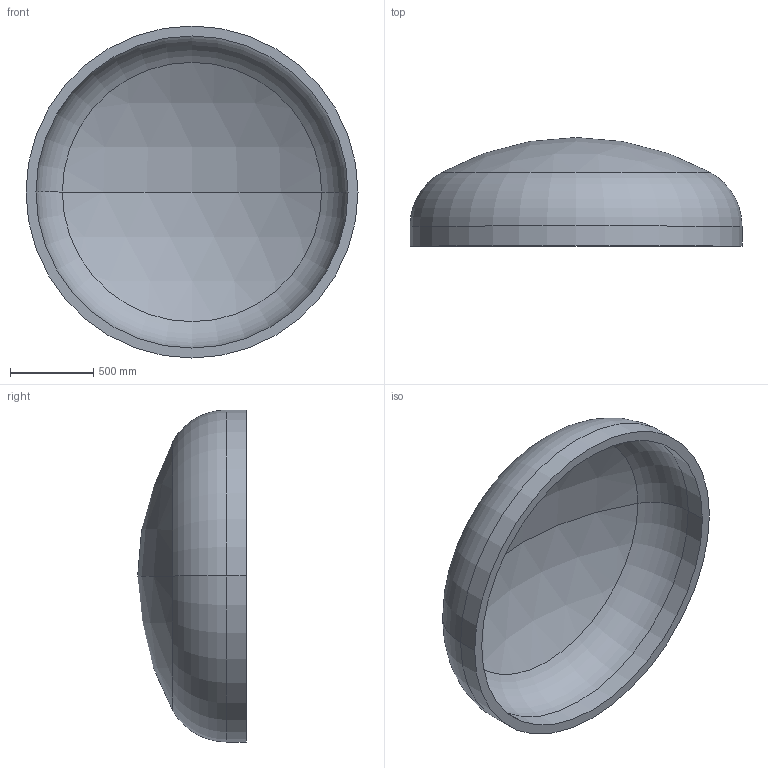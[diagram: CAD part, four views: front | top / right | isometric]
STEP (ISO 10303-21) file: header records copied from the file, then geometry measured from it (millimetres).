
FILE_DESCRIPTION (( 'STEP AP203' ), '1' );
FILE_NAME ('DIN 28013 Korbbogenform_-_Boden DIN 28013 - 2000 x 120 - I - s=60.step', '2016-07-01T13:59:27', ( '' ), ( '' ), 'SwSTEP 2.0', 'SolidWorks 2013', '' );
FILE_SCHEMA (( 'CONFIG_CONTROL_DESIGN' ));
Length unit declared in the file: millimetre
Products named in the file (1): DIN 28013 Korbbogenform_-_Boden DIN 28013 - 2000 x 120 - I - s=60
Bounding box: 2000 x 654.3 x 2000 mm (x, y, z)
Volume: 295239042.3 mm3; surface area: 10214519.7 mm2
Topology: 1 solids, 1 shells, 13 faces, 24 edges, 14 vertices
Faces by surface type: torus 4, cylinder 4, sphere 4, plane 1
Entity records: 407 total; most frequent: DIRECTION 72, CARTESIAN_POINT 52, ORIENTED_EDGE 48, AXIS2_PLACEMENT_3D 34, EDGE_CURVE 24, CIRCLE 20, VERTEX_POINT 14, EDGE_LOOP 14
